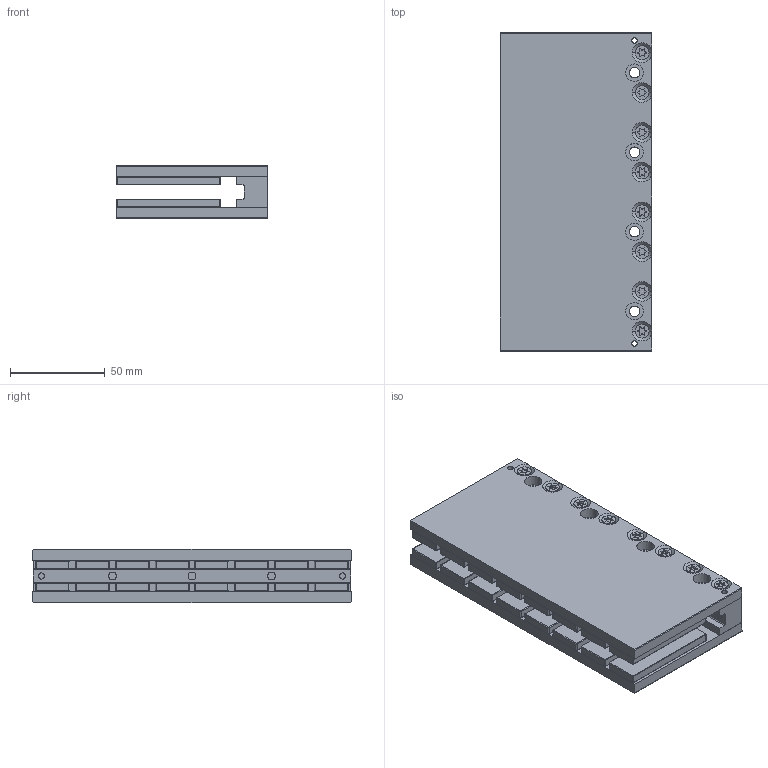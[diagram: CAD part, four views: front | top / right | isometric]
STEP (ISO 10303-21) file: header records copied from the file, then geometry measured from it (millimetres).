
FILE_DESCRIPTION (( 'STEP AP203' ), '1' );
FILE_NAME ('MY91-168 assembly 3D.STEP', '2022-10-28T07:08:46', ( '' ), ( '' ), 'SwSTEP 2.0', 'SolidWorks 2021', '' );
FILE_SCHEMA (( 'CONFIG_CONTROL_DESIGN' ));
Length unit declared in the file: millimetre
Products named in the file (1): MY91-168 assembly 3D
Bounding box: 80.2 x 167.92 x 28.4 mm (x, y, z)
Volume: 299988.4 mm3; surface area: 136557.4 mm2
Topology: 36 solids, 36 shells, 1238 faces, 3110 edges, 1940 vertices
Faces by surface type: cylinder 626, plane 372, torus 128, cone 112
Entity records: 37938 total; most frequent: DIRECTION 6992, CARTESIAN_POINT 6918, ORIENTED_EDGE 6220, EDGE_CURVE 3110, AXIS2_PLACEMENT_3D 2691, VERTEX_POINT 1940, VECTOR 1610, LINE 1610
